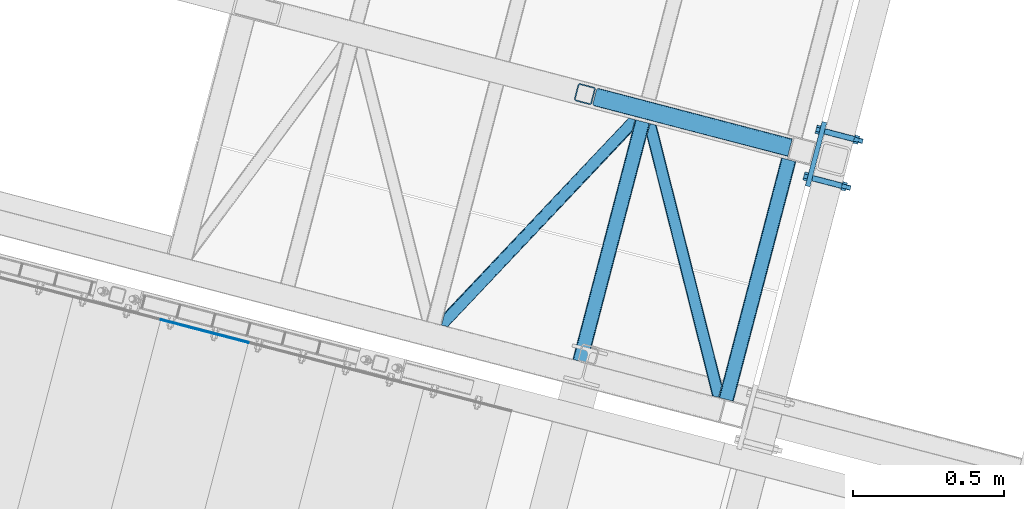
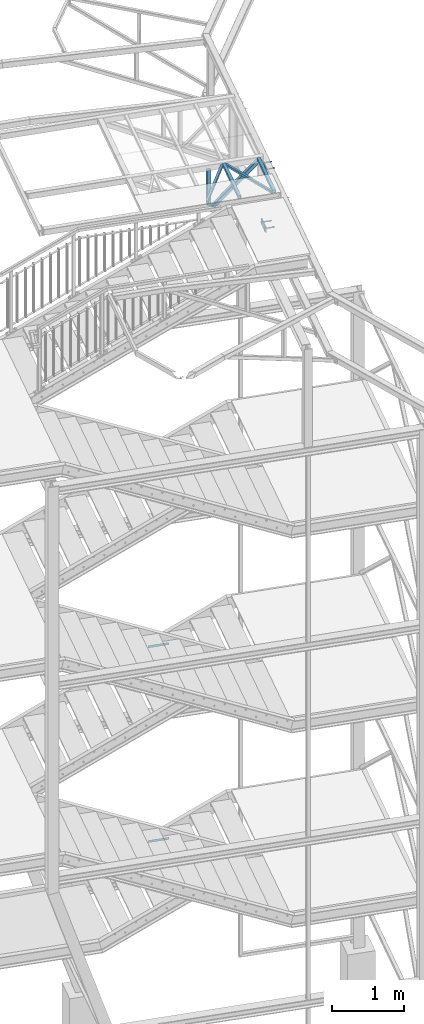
# One storey, part 83 of 169: 10 discrete accessories, 2 mechanical fasteners, 3 elements without a shape of their own.
"""IFC2X3 building model written with IfcOpenShell, lengths in millimetres."""

from ifc_helpers import new_model, si_unit, frame, frame_2d, origin_with_axes, origin_2d_with_axis, place, context, subcontext, project, spatial, polyline, circle_curve, parameter, trimmed, segment, composite_curve, rectangle, hollow_rectangle, circle, outline, extrude, boolean, clip, halfspace, source, transform, mapped, material, type_object, element, aggregate, save


model = new_model("IFC2X3")

# Units and contexts
model_context = context("Model", 3, precision=1e-05, world=origin_with_axes())
body_context = subcontext(model_context, "Body", "Model", "MODEL_VIEW")
ifc_project = project(units=[si_unit("LENGTHUNIT", "METRE", prefix="MILLI"), si_unit("AREAUNIT", "SQUARE_METRE"), si_unit("VOLUMEUNIT", "CUBIC_METRE"), si_unit("MASSUNIT", "GRAM", prefix="KILO"), si_unit("TIMEUNIT", "SECOND"), si_unit("PLANEANGLEUNIT", "RADIAN"), si_unit("SOLIDANGLEUNIT", "STERADIAN"), si_unit("THERMODYNAMICTEMPERATUREUNIT", "DEGREE_CELSIUS"), si_unit("LUMINOUSINTENSITYUNIT", "LUMEN")], contexts=[model_context])

# Site, building, storey
site_placement = place(None, origin_with_axes())
site = spatial("IfcSite", under=ifc_project, at=site_placement, Name="Undefined", CompositionType="ELEMENT")
building_placement = place(site_placement, origin_with_axes())
building = spatial("IfcBuilding", under=site, at=building_placement, Name="Undefined", CompositionType="ELEMENT")
storey_placement = place(building_placement, origin_with_axes())
storey = spatial("IfcBuildingStorey", under=building, at=storey_placement, Name="Undefined", CompositionType="ELEMENT", Elevation=0.0)

# Assembly, discrete accessories, mechanical fasteners
assembly_1_placement = place(storey_placement, origin_with_axes())
assembly_1 = element("IfcElementAssembly", 1, at=assembly_1_placement, inside=storey, Name="Steel Assembly", AssemblyPlace="NOTDEFINED", PredefinedType="RIGID_FRAME")
ifc_material_1 = material(Name="STEEL/S235")
discrete_accessory_type_1 = type_object("IfcDiscreteAccessoryType", Name="BLACHA")
discrete_accessory_1_placement = place(assembly_1_placement, frame((-23392.2822658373, 8673.56354224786, 12831.6351877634), z_axis=(-0.967563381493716, 0.252628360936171, -0.000118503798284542), x_axis=(0.252628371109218, 0.967563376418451, -0.000136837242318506)))
discrete_accessory_1 = element("IfcDiscreteAccessory", 2, at=discrete_accessory_1_placement, type_object=discrete_accessory_type_1, material=ifc_material_1, Name="BLACHA", ObjectType="BL16*100", context=body_context, shape_type="SweptSolid", body=[
    extrude(outline(polyline([(-2.8421709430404e-11, 50.0000000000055), (220.000000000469, 50.0000000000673), (220.000000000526, -49.9999999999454), (2.75122147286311e-11, -50.0000000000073), (-2.8421709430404e-11, 50.0000000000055)])), frame((4.54778590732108e-13, 0.0, -8.0), z_axis=(0.0, 0.0, 1.0), x_axis=(1.0, 0.0, 0.0)), (0.0, 0.0, 1.0), 16.0),
])
discrete_accessory_2_placement = place(assembly_1_placement, frame((-23392.326800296, 8673.39311461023, 13831.9414189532), z_axis=(-0.967563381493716, 0.252628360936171, -0.000118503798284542), x_axis=(0.252628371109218, 0.967563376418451, -0.000136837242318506)))
discrete_accessory_2 = element("IfcDiscreteAccessory", 3, at=discrete_accessory_2_placement, type_object=discrete_accessory_type_1, material=ifc_material_1, Name="BLACHA", ObjectType="BL16*100", context=body_context, shape_type="SweptSolid", body=[
    extrude(outline(polyline([(-2.8421709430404e-11, 50.0000000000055), (220.000000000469, 50.0000000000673), (220.000000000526, -49.9999999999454), (2.75122147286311e-11, -50.0000000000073), (-2.8421709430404e-11, 50.0000000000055)])), frame((4.54778590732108e-13, 0.0, -8.0), z_axis=(0.0, 0.0, 1.0), x_axis=(1.0, 0.0, 0.0)), (0.0, 0.0, 1.0), 16.0),
])
ifc_material_2 = material(Name="STEEL/S355")
discrete_accessory_type_2 = type_object("IfcDiscreteAccessoryType", Name="BEAM")
discrete_accessory_3_placement = place(assembly_1_placement, frame((-24641.2676375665, 8176.83721519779, 13995.7615454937), z_axis=(-3.45692487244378e-05, -0.000132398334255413, -0.999999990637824), x_axis=(0.687337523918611, 0.726338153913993, -0.00011992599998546)))
discrete_accessory_3 = element("IfcDiscreteAccessory", 4, at=discrete_accessory_3_placement, type_object=discrete_accessory_type_2, material=ifc_material_2, Name="BEAM", ObjectType="SHS40*3", context=body_context, shape_type="CSG", body=[
    boolean("DIFFERENCE", boolean("DIFFERENCE", boolean("DIFFERENCE", boolean("DIFFERENCE", extrude(hollow_rectangle(XDim=40.0, YDim=40.0, WallThickness=3.0, InnerFilletRadius=3.0, OuterFilletRadius=6.0, at=origin_2d_with_axis()), frame((993.727291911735, -5.09346983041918e-15, -1.81898940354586e-12), z_axis=(-1.0, -3.46944695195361e-18, -1.38777878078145e-17), x_axis=(1.73472347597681e-18, -1.0, 0.0)), (0.0, 0.0, 1.0), 949.14), extrude(rectangle(XDim=52.0, YDim=52.0, at=origin_2d_with_axis()), frame((-124.053174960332, 68.1548995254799, -5.02690089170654), z_axis=(0.87641917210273, -0.481548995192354, 3.56686751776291e-10), x_axis=(0.481548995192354, 0.87641917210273, 7.42459253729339e-10)), (0.0, 0.0, 1.0), 283.07)), extrude(rectangle(XDim=52.0, YDim=52.0, at=origin_2d_with_axis()), frame((914.26276957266, 68.1548995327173, -5.04171328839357), z_axis=(0.87641917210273, -0.481548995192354, 3.56686751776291e-10), x_axis=(0.481548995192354, 0.87641917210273, 7.42459253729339e-10)), (0.0, 0.0, 1.0), 283.07)), halfspace(frame((997.55540082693, 19.2619598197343, -1000.0000000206), z_axis=(-0.876419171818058, 0.481548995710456, -8.91491805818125e-10), x_axis=(0.481548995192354, 0.87641917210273, 7.42459253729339e-10)), True)), halfspace(frame((40.7621299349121, -19.2619598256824, -999.999999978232), z_axis=(0.87641917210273, -0.481548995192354, 3.56686751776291e-10), x_axis=(-0.481548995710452, -0.876419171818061, -5.35097569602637e-10)), True)),
])
discrete_accessory_4_placement = place(assembly_1_placement, frame((-23673.7094965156, 7924.21021228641, 13995.7615452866), z_axis=(-3.45692487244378e-05, -0.000132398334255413, -0.999999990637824), x_axis=(-0.244520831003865, 0.969644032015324, -0.000119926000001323)))
discrete_accessory_4 = element("IfcDiscreteAccessory", 5, at=discrete_accessory_4_placement, type_object=discrete_accessory_type_2, material=ifc_material_2, Name="BEAM", ObjectType="SHS40*3", context=body_context, shape_type="CSG", body=[
    boolean("DIFFERENCE", boolean("DIFFERENCE", boolean("DIFFERENCE", boolean("DIFFERENCE", extrude(hollow_rectangle(XDim=40.0, YDim=40.0, WallThickness=3.0, InnerFilletRadius=3.0, OuterFilletRadius=6.0, at=origin_2d_with_axis()), frame((991.21413643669, 3.64525771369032e-12, -1.81897597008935e-12), z_axis=(-1.0, -3.46944695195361e-18, -1.38777878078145e-17), x_axis=(1.73472347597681e-18, -1.0, 0.0)), (0.0, 0.0, 1.0), 944.11), extrude(rectangle(XDim=52.0, YDim=52.0, at=origin_2d_with_axis()), frame((-124.04191477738, -68.1548997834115, -5.05652708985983), z_axis=(0.876419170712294, 0.481548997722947, 3.94778385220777e-10), x_axis=(-0.481548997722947, 0.876419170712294, -2.581353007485e-10)), (0.0, 0.0, 1.0), 283.07)), extrude(rectangle(XDim=52.0, YDim=52.0, at=origin_2d_with_axis()), frame((914.274024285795, -68.1548997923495, -5.04171350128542), z_axis=(0.876419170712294, 0.481548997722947, 3.94778385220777e-10), x_axis=(-0.481548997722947, 0.876419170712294, -2.581353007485e-10)), (0.0, 0.0, 1.0), 283.07)), halfspace(frame((997.555402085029, -19.2619599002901, -1000.0000000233), z_axis=(-0.876419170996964, -0.481548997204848, -9.29587459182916e-10), x_axis=(-0.481548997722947, 0.876419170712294, -2.581353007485e-10)), True)), halfspace(frame((40.7621299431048, 19.2619598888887, -999.999999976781), z_axis=(0.876419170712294, 0.481548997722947, 3.94778385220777e-10), x_axis=(0.481548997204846, -0.876419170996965, 4.65497578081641e-10)), True)),
])
discrete_accessory_5_placement = place(assembly_1_placement, frame((-23938.9671969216, 8887.468451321, 14000.6848951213), z_axis=(-3.45692487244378e-05, -0.000132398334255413, -0.999999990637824), x_axis=(-0.252628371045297, -0.967563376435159, 0.000136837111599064)))
discrete_accessory_5 = element("IfcDiscreteAccessory", 6, at=discrete_accessory_5_placement, type_object=discrete_accessory_type_2, material=ifc_material_2, Name="BEAM", ObjectType="SHS50*3", context=body_context, shape_type="Clipping", body=[
    clip(clip(extrude(hollow_rectangle(XDim=50.0, YDim=50.0, WallThickness=3.0, InnerFilletRadius=3.0, OuterFilletRadius=6.0, at=origin_2d_with_axis()), frame((820.000811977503, 3.24194136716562e-14, -2.22261665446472e-17), z_axis=(-1.0, -3.46944695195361e-18, -1.38777878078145e-17), x_axis=(1.73472347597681e-18, -1.0, 0.0)), (0.0, 0.0, 1.0), 820.0), halfspace(frame((820.000811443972, 1.99797796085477e-08, -999.999999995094), z_axis=(-1.0, -3.46944695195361e-18, -1.38777878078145e-17), x_axis=(0.0, 1.0, 0.0)), True)), halfspace(frame((9.08307811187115e-08, -1.23909558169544e-08, -1000.00000000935), z_axis=(1.0, 0.0, 0.0), x_axis=(1.73472347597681e-18, -1.0, 0.0)), True)),
])
discrete_accessory_6_placement = place(assembly_1_placement, frame((-23455.1855038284, 8761.15426679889, 14000.6997081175), z_axis=(-3.45692487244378e-05, -0.000132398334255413, -0.999999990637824), x_axis=(-0.252628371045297, -0.967563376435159, 0.000136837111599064)))
discrete_accessory_6 = element("IfcDiscreteAccessory", 7, at=discrete_accessory_6_placement, type_object=discrete_accessory_type_2, material=ifc_material_2, Name="BEAM", ObjectType="SHS50*3", context=body_context, shape_type="Clipping", body=[
    clip(clip(extrude(hollow_rectangle(XDim=50.0, YDim=50.0, WallThickness=3.0, InnerFilletRadius=3.0, OuterFilletRadius=6.0, at=origin_2d_with_axis()), frame((820.000811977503, 3.24194136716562e-14, -2.22261665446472e-17), z_axis=(-1.0, -3.46944695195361e-18, -1.38777878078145e-17), x_axis=(1.73472347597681e-18, -1.0, 0.0)), (0.0, 0.0, 1.0), 820.0), halfspace(frame((820.000811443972, 1.99797796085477e-08, -999.999999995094), z_axis=(-1.0, -3.46944695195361e-18, -1.38777878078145e-17), x_axis=(0.0, 1.0, 0.0)), True)), halfspace(frame((9.08307811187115e-08, -1.23909558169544e-08, -1000.00000000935), z_axis=(1.0, 0.0, 0.0), x_axis=(1.73472347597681e-18, -1.0, 0.0)), True)),
])
discrete_accessory_7_placement = place(assembly_1_placement, frame((-24130.236413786, 8978.65104337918, 13305.7444374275), z_axis=(5.90399999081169e-06, 0.000139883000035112, 0.999999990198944), x_axis=(-0.252628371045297, -0.967563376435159, 0.000136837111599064)))
discrete_accessory_7 = element("IfcDiscreteAccessory", 8, at=discrete_accessory_7_placement, type_object=discrete_accessory_type_2, material=ifc_material_2, Name="BEAM", ObjectType="SHS60*4", context=body_context, shape_type="Clipping", body=[
    clip(clip(extrude(hollow_rectangle(XDim=60.0, YDim=60.0, WallThickness=4.0, InnerFilletRadius=4.0, OuterFilletRadius=8.0, at=origin_2d_with_axis()), frame((-1.36424205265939e-12, -3.63798720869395e-12, 619.928825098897), z_axis=(-2.54700353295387e-10, 0.0, -1.0), x_axis=(0.0, 1.0, 0.0)), (0.0, 0.0, 1.0), 597.69), halfspace(frame((1000.0000000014, 1.70257408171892e-09, 619.928824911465), z_axis=(-2.54700353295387e-10, 0.0, -1.0), x_axis=(0.0, 1.0, 0.0)), True)), halfspace(frame((999.999999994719, 19.9381658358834, 10.7773083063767), z_axis=(1.62111313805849e-10, 0.498454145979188, 0.866916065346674), x_axis=(3.43917918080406e-10, -0.866916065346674, 0.498454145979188)), True)),
])
discrete_accessory_8_placement = place(assembly_1_placement, frame((-23411.2147652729, 8791.01104190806, 13975.6952715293), z_axis=(-0.252628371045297, -0.967563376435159, 0.000136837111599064), x_axis=(-0.684089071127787, 0.178513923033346, -0.707216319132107)))
discrete_accessory_8 = element("IfcDiscreteAccessory", 9, at=discrete_accessory_8_placement, type_object=discrete_accessory_type_2, material=ifc_material_2, Name="BEAM", ObjectType="SHS60*4", context=body_context, shape_type="CSG", body=[
    boolean("DIFFERENCE", boolean("DIFFERENCE", boolean("DIFFERENCE", extrude(hollow_rectangle(XDim=60.0, YDim=60.0, WallThickness=4.0, InnerFilletRadius=4.0, OuterFilletRadius=8.0, at=origin_2d_with_axis()), frame((1005.97773504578, -3.58213582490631e-12, -8.39622806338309e-13), z_axis=(-1.0, -3.46944695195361e-18, -1.38777878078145e-17), x_axis=(1.73472347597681e-18, -1.0, 0.0)), (0.0, 0.0, 1.0), 1046.75), extrude(rectangle(XDim=82.0, YDim=82.0, at=origin_2d_with_axis()), frame((-106.079306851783, -106.052725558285, 5.70384018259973e-09), z_axis=(0.707195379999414, 0.707018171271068, -6.25849388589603e-13), x_axis=(-0.707018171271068, 0.707195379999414, 1.8757681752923e-10)), (0.0, 0.0, 1.0), 300.0)), halfspace(frame((968.017070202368, -10.4168375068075, 999.999999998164), z_axis=(-0.965495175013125, -0.26042094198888, 2.56150352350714e-10), x_axis=(0.26042094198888, -0.965495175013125, 1.81617451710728e-10)), True)), halfspace(frame((625.160715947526, 625.004063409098, 5.1300048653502e-09), z_axis=(-0.707018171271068, 0.707195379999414, 1.8757681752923e-10), x_axis=(0.0, 0.0, 1.0)), False)),
])
ifc_material_3 = material(Name="Undefined")
discrete_accessory_type_3 = type_object("IfcDiscreteAccessoryType", Name="Bolt assembly")
shared_shape_1 = source(origin_with_axes(), body_context, "Body", "SweptSolid", [
    extrude(circle(Radius=9.5, at=origin_2d_with_axis()), frame((0.0, 3.89999843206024, 0.0), z_axis=(0.0, 1.0, 0.0), x_axis=(1.0, 0.0, 0.0)), (0.0, 0.0, 1.0), 100.1),
    extrude(outline(composite_curve([segment(polyline([(9.5, 10.0), (9.5, -10.0)]), True, "CONTINUOUS"), segment(trimmed(circle_curve(frame_2d((0.0, -10.0), x_axis=(1.0, 0.0)), 9.5), [parameter(0.0)], [parameter(3.14159265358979)], False, "PARAMETER"), True, "CONTINUOUS"), segment(polyline([(-9.5, -10.0), (-9.5, 10.0)]), True, "CONTINUOUS"), segment(trimmed(circle_curve(frame_2d((0.0, 10.0), x_axis=(-1.0, 0.0)), 9.5), [parameter(0.0)], [parameter(3.14159265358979)], False, "PARAMETER"), True, "DISCONTINUOUS")], self_intersect=False)), frame((0.0, -12.9000000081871, 0.0), z_axis=(0.0, 1.0, 0.0), x_axis=(1.0, 0.0, 0.0)), (0.0, 0.0, 1.0), 16.0),
    extrude(outline(polyline([(13.85640646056, 0.0), (6.92820323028, 12.0000000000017), (-6.92820323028, 12.0000000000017), (-13.85640646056, 0.0), (-6.92820323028, -12.0000000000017), (6.92820323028, -12.0000000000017), (13.85640646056, 0.0)])), frame((0.0, -26.0000000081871, 0.0), z_axis=(0.0, 1.0, 0.0), x_axis=(1.0, 0.0, 0.0)), (0.0, 0.0, 1.0), 10.0),
    extrude(circle(Radius=8.0, at=origin_2d_with_axis()), frame((0.0, -16.0000000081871, 0.0), z_axis=(0.0, 1.0, 0.0), x_axis=(1.0, 0.0, 0.0)), (0.0, 0.0, 1.0), 150.0),
    extrude(circle(Radius=15.0, at=origin_2d_with_axis()), frame((0.0, -16.0000000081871, 0.0), z_axis=(0.0, 1.0, 0.0), x_axis=(1.0, 0.0, 0.0)), (0.0, 0.0, 1.0), 3.0),
    extrude(circle(Radius=15.0, at=origin_2d_with_axis()), frame((0.0, 103.999998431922, 0.0), z_axis=(0.0, 1.0, 0.0), x_axis=(1.0, 0.0, 0.0)), (0.0, 0.0, 1.0), 3.0),
    extrude(outline(polyline([(13.85640646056, 0.0), (6.92820323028, 12.0000000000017), (-6.92820323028, 12.0000000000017), (-13.85640646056, 0.0), (-6.92820323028, -12.0000000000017), (6.92820323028, -12.0000000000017), (13.85640646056, 0.0)])), frame((0.0, 106.999998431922, 0.0), z_axis=(0.0, 1.0, 0.0), x_axis=(1.0, 0.0, 0.0)), (0.0, 0.0, 1.0), 13.0),
])
mechanical_fastener_1_placement = place(assembly_1_placement, frame((-23339.4895919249, 8855.96701403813, 13831.9156569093), z_axis=(-8.00909999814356e-05, 0.000162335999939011, 0.999999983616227), x_axis=(-0.252628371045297, -0.967563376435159, 0.000136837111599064)))
mechanical_fastener_1 = element("IfcMechanicalFastener", 10, at=mechanical_fastener_1_placement, type_object=discrete_accessory_type_3, material=ifc_material_3, Name="Bolt assembly", NominalDiameter=16.0, NominalLength=150.0, context=body_context, shape_type="MappedRepresentation", body=[
    mapped(shared_shape_1, transform((0.0, 0.0, 0.0))),
    mapped(shared_shape_1, transform((159.999999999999, -3.45607986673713e-10, -1.67347025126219e-10))),
])
shared_shape_2 = source(origin_with_axes(), body_context, "Body", "SweptSolid", [
    extrude(circle(Radius=9.5, at=origin_2d_with_axis()), frame((0.0, 5.8999994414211, 0.0), z_axis=(0.0, 1.0, 0.0), x_axis=(1.0, 0.0, 0.0)), (0.0, 0.0, 1.0), 100.1),
    extrude(outline(composite_curve([segment(polyline([(9.5, 10.0), (9.5, -10.0)]), True, "CONTINUOUS"), segment(trimmed(circle_curve(frame_2d((0.0, -10.0), x_axis=(1.0, 0.0)), 9.5), [parameter(0.0)], [parameter(3.14159265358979)], False, "PARAMETER"), True, "CONTINUOUS"), segment(polyline([(-9.5, -10.0), (-9.5, 10.0)]), True, "CONTINUOUS"), segment(trimmed(circle_curve(frame_2d((0.0, 10.0), x_axis=(-1.0, 0.0)), 9.5), [parameter(0.0)], [parameter(3.14159265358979)], False, "PARAMETER"), True, "DISCONTINUOUS")], self_intersect=False)), frame((0.0, -10.9000001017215, 0.0), z_axis=(0.0, 1.0, 0.0), x_axis=(1.0, 0.0, 0.0)), (0.0, 0.0, 1.0), 16.0),
    extrude(outline(polyline([(13.85640646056, 0.0), (6.92820323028, 12.0000000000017), (-6.92820323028, 12.0000000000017), (-13.85640646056, 0.0), (-6.92820323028, -12.0000000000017), (6.92820323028, -12.0000000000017), (13.85640646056, 0.0)])), frame((0.0, -24.0000001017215, 0.0), z_axis=(0.0, 1.0, 0.0), x_axis=(1.0, 0.0, 0.0)), (0.0, 0.0, 1.0), 10.0),
    extrude(circle(Radius=8.0, at=origin_2d_with_axis()), frame((0.0, -14.0000001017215, 0.0), z_axis=(0.0, 1.0, 0.0), x_axis=(1.0, 0.0, 0.0)), (0.0, 0.0, 1.0), 150.0),
    extrude(circle(Radius=15.0, at=origin_2d_with_axis()), frame((0.0, -14.0000001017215, 0.0), z_axis=(0.0, 1.0, 0.0), x_axis=(1.0, 0.0, 0.0)), (0.0, 0.0, 1.0), 3.0),
    extrude(circle(Radius=15.0, at=origin_2d_with_axis()), frame((0.0, 105.999999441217, 0.0), z_axis=(0.0, 1.0, 0.0), x_axis=(1.0, 0.0, 0.0)), (0.0, 0.0, 1.0), 3.0),
    extrude(outline(polyline([(13.85640646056, 0.0), (6.92820323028, 12.0000000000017), (-6.92820323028, 12.0000000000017), (-13.85640646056, 0.0), (-6.92820323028, -12.0000000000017), (6.92820323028, -12.0000000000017), (13.85640646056, 0.0)])), frame((0.0, 108.999999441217, 0.0), z_axis=(0.0, 1.0, 0.0), x_axis=(1.0, 0.0, 0.0)), (0.0, 0.0, 1.0), 13.0),
])
mechanical_fastener_2_placement = place(assembly_1_placement, frame((-23341.3801839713, 8856.64269836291, 12831.6095442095), z_axis=(-8.00909999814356e-05, 0.000162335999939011, 0.999999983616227), x_axis=(-0.252628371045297, -0.967563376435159, 0.000136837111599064)))
mechanical_fastener_2 = element("IfcMechanicalFastener", 11, at=mechanical_fastener_2_placement, type_object=discrete_accessory_type_3, material=ifc_material_3, Name="Bolt assembly", NominalDiameter=16.0, NominalLength=150.0, context=body_context, shape_type="MappedRepresentation", body=[
    mapped(shared_shape_2, transform((0.0, 0.0, 0.0))),
    mapped(shared_shape_2, transform((159.999999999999, -3.45607986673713e-10, -1.67347025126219e-10))),
])
aggregate(assembly_1, [discrete_accessory_3, discrete_accessory_4, discrete_accessory_5, discrete_accessory_6, mechanical_fastener_1, mechanical_fastener_2, discrete_accessory_1, discrete_accessory_2, discrete_accessory_7, discrete_accessory_8])

# Assembly, discrete accessory
assembly_2_placement = place(storey_placement, origin_with_axes())
assembly_2 = element("IfcElementAssembly", 12, at=assembly_2_placement, inside=storey, Name="Steel Assembly", AssemblyPlace="NOTDEFINED", PredefinedType="RIGID_FRAME")
ifc_material_4 = material(Name="STEEL/S235JR")
discrete_accessory_type_4 = type_object("IfcDiscreteAccessoryType", Name="ANGLE")
discrete_accessory_9_placement = place(assembly_2_placement, frame((-25534.5355842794, 8231.80475538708, 6780.09584768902), z_axis=(-0.252562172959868, -0.967580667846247, 0.0), x_axis=(0.967580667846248, -0.252562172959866, 0.0)))
discrete_accessory_9 = element("IfcDiscreteAccessory", 13, at=discrete_accessory_9_placement, type_object=discrete_accessory_type_4, material=ifc_material_4, Name="ANGLE", ObjectType="3*40", context=body_context, shape_type="SweptSolid", body=[
    extrude(rectangle(XDim=40.0, YDim=3.0, at=origin_2d_with_axis()), frame((300.000000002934, 1.81898940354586e-12, -1.81898940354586e-12), z_axis=(-1.0, -3.46944695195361e-18, -1.38777878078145e-17), x_axis=(1.73472347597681e-18, -1.0, 0.0)), (0.0, 0.0, 1.0), 300.0),
])
aggregate(assembly_2, [discrete_accessory_9])

assembly_3_placement = place(storey_placement, origin_with_axes())
assembly_3 = element("IfcElementAssembly", 14, at=assembly_3_placement, inside=storey, Name="Steel Assembly", AssemblyPlace="NOTDEFINED", PredefinedType="RIGID_FRAME")
discrete_accessory_10_placement = place(assembly_3_placement, frame((-25534.6496699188, 8231.36784236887, 3480.09587438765), z_axis=(-0.252562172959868, -0.967580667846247, 0.0), x_axis=(0.967580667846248, -0.252562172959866, 0.0)))
discrete_accessory_10 = element("IfcDiscreteAccessory", 15, at=discrete_accessory_10_placement, type_object=discrete_accessory_type_4, material=ifc_material_4, Name="ANGLE", ObjectType="3*40", context=body_context, shape_type="SweptSolid", body=[
    extrude(rectangle(XDim=40.0, YDim=3.0, at=origin_2d_with_axis()), frame((300.000000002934, 1.81898940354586e-12, -1.81898940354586e-12), z_axis=(-1.0, -3.46944695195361e-18, -1.38777878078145e-17), x_axis=(1.73472347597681e-18, -1.0, 0.0)), (0.0, 0.0, 1.0), 300.0),
])
aggregate(assembly_3, [discrete_accessory_10])

save(model, "model.ifc")
